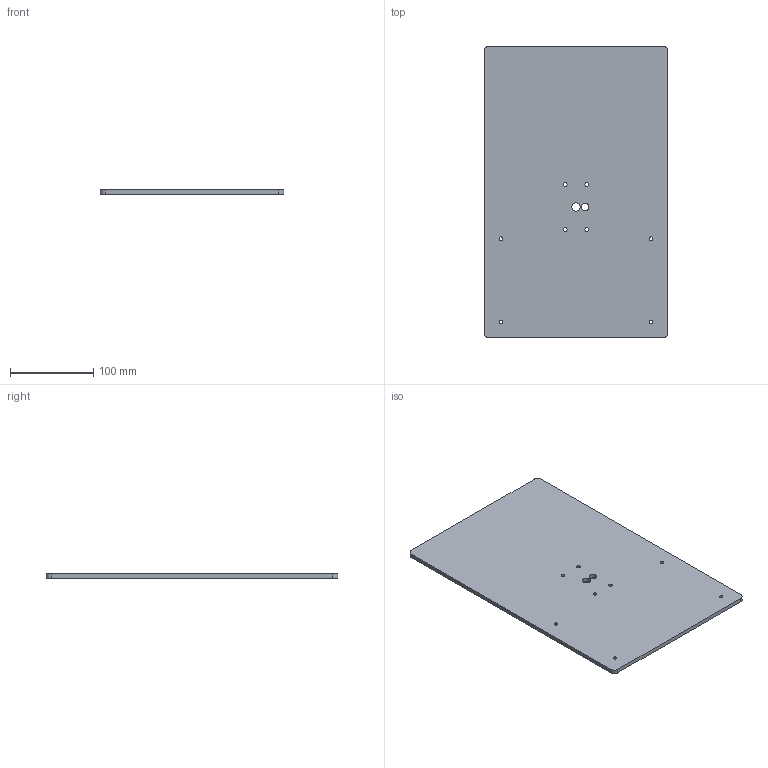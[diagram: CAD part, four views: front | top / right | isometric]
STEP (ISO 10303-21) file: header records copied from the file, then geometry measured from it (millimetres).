
FILE_DESCRIPTION(('FreeCAD Model'),'2;1');
FILE_NAME('Open CASCADE Shape Model','2026-10-31T13:49:48',('FreeCAD'),( 'FreeCAD'),'Open CASCADE STEP processor 7.8','FreeCAD','Unknown');
FILE_SCHEMA(('AUTOMOTIVE_DESIGN { 1 0 10303 214 1 1 1 1 }'));
Length unit declared in the file: millimetre
Products named in the file (1): Open CASCADE STEP translator 7.8 1
Bounding box: 220 x 350 x 5 mm (x, y, z)
Volume: 383498.5 mm3; surface area: 159911.8 mm2
Topology: 1 solids, 1 shells, 20 faces, 54 edges, 36 vertices
Faces by surface type: cylinder 14, plane 6
Full cylindrical faces by diameter (mm): 4.5 x8, 9 x1, 10 x1
Entity records: 696 total; most frequent: DIRECTION 124, CARTESIAN_POINT 111, ORIENTED_EDGE 108, EDGE_CURVE 54, AXIS2_PLACEMENT_3D 49, FACE_BOUND 40, EDGE_LOOP 40, VERTEX_POINT 36
